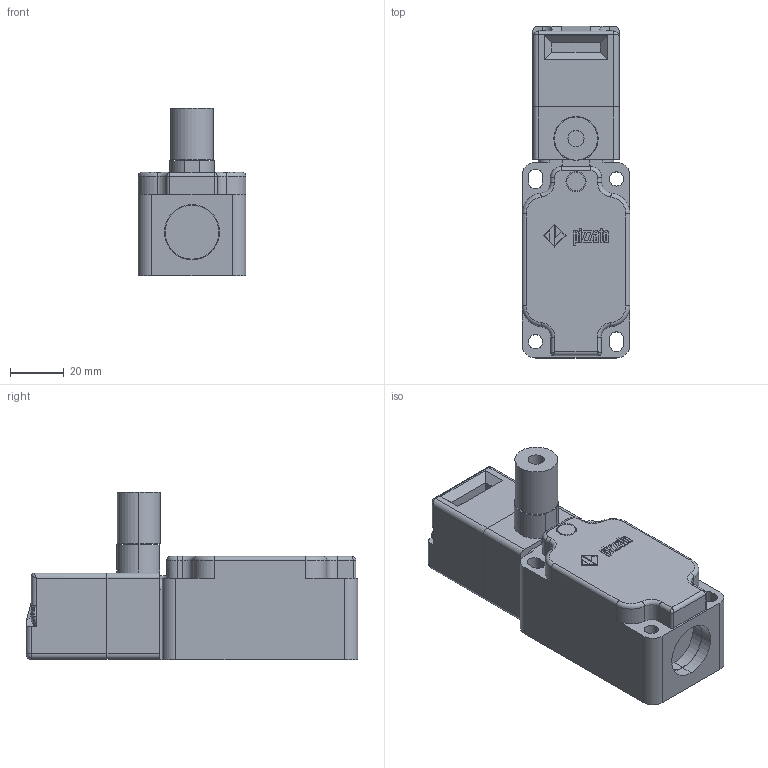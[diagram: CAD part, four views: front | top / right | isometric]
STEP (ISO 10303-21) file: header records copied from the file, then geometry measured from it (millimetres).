
FILE_DESCRIPTION (( 'STEP AP203' ), '1' );
FILE_NAME ('ZF_STEP_FP_xR2-Lxx_A10.step', '2010-02-26T18:51:45', ( 'fabio' ), ( '' ), 'SwSTEP 2.0', 'SolidWorks 2009', '' );
FILE_SCHEMA (( 'CONFIG_CONTROL_DESIGN' ));
Length unit declared in the file: millimetre
Products named in the file (5): Pizzato_Supporto_T93_T96_TS96; ZF_STEP_FP_xR2-Lxx_A10; Pizzato_Custodia_FP; ZF_STEP_VF_TR2-L_A10; Pizzato_Modulo_R2_L
Assembly tree (4 placements, depth 3):
  ZF_STEP_FP_xR2-Lxx_A10
    ZF_STEP_VF_TR2-L_A10
      Pizzato_Supporto_T93_T96_TS96
      Pizzato_Modulo_R2_L
    Pizzato_Custodia_FP
Bounding box: 40 x 123 x 62.2 mm (x, y, z)
Volume: 152099.6 mm3; surface area: 32694.8 mm2
Topology: 3 solids, 3 shells, 476 faces, 1237 edges, 803 vertices
Faces by surface type: plane 281, cylinder 102, bspline 73, torus 14, sphere 6
Entity records: 20881 total; most frequent: CARTESIAN_POINT 9031, ORIENTED_EDGE 2462, DIRECTION 2128, EDGE_CURVE 1231, VECTOR 852, LINE 852, VERTEX_POINT 803, AXIS2_PLACEMENT_3D 638
